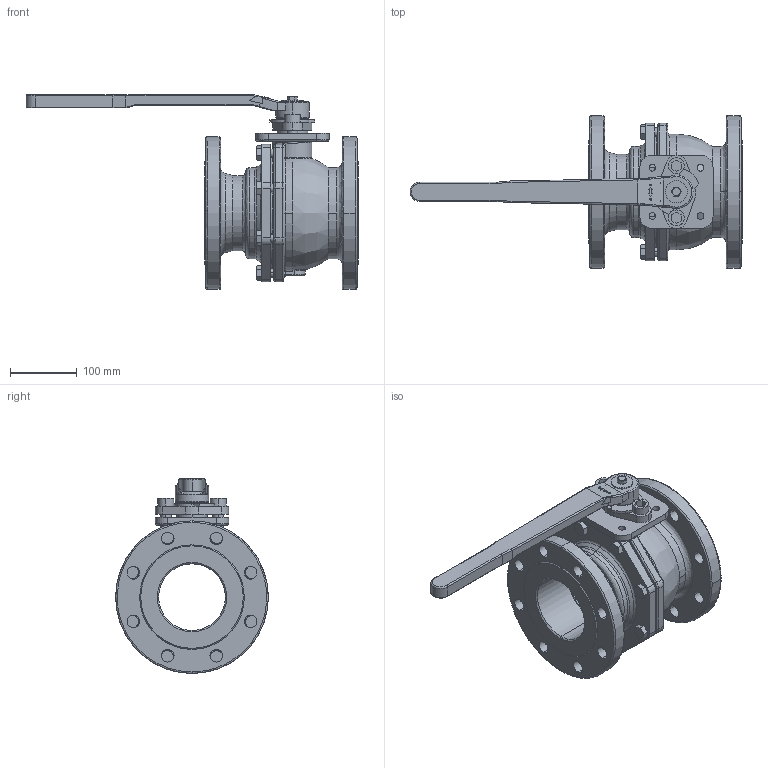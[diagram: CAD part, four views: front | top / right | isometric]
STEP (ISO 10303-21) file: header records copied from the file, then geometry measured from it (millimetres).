
FILE_DESCRIPTION(('Open CASCADE Model'),'2;1');
FILE_NAME('Open CASCADE Shape Model','2021-11-19T09:13:47',('Author'),( 'Open CASCADE'),'Open CASCADE STEP processor 7.3','Open CASCADE 7.3' ,'Unknown');
FILE_SCHEMA(('AUTOMOTIVE_DESIGN { 1 0 10303 214 1 1 1 1 }'));
Length unit declared in the file: millimetre
Products named in the file (29): Open CASCADE STEP translator 7.3 1; Open CASCADE STEP translator 7.3 1.1; Open CASCADE STEP translator 7.3 1.2; Open CASCADE STEP translator 7.3 1.3; Open CASCADE STEP translator 7.3 1.4; Open CASCADE STEP translator 7.3 1.5; Open CASCADE STEP translator 7.3 1.6; Open CASCADE STEP translator 7.3 1.7; Open CASCADE STEP translator 7.3 1.8; Open CASCADE STEP translator 7.3 1.9; Open CASCADE STEP translator 7.3 1.10; Open CASCADE STEP translator 7.3 1.11; Open CASCADE STEP translator 7.3 1.12; Open CASCADE STEP translator 7.3 1.13; Open CASCADE STEP translator 7.3 1.14; Open CASCADE STEP translator 7.3 1.15; Open CASCADE STEP translator 7.3 1.16; Open CASCADE STEP translator 7.3 1.17; Open CASCADE STEP translator 7.3 1.18; Open CASCADE STEP translator 7.3 1.19; Open CASCADE STEP translator 7.3 1.20; Open CASCADE STEP translator 7.3 1.21; Open CASCADE STEP translator 7.3 1.22; Open CASCADE STEP translator 7.3 1.23; Open CASCADE STEP translator 7.3 1.24; Open CASCADE STEP translator 7.3 1.25; Open CASCADE STEP translator 7.3 1.26; Open CASCADE STEP translator 7.3 1.27; Open CASCADE STEP translator 7.3 1.28
Assembly tree (28 placements, depth 2):
  Open CASCADE STEP translator 7.3 1
    Open CASCADE STEP translator 7.3 1.1
    Open CASCADE STEP translator 7.3 1.2
    Open CASCADE STEP translator 7.3 1.3
    Open CASCADE STEP translator 7.3 1.4
    Open CASCADE STEP translator 7.3 1.5
    Open CASCADE STEP translator 7.3 1.6
    Open CASCADE STEP translator 7.3 1.7
    Open CASCADE STEP translator 7.3 1.8
    Open CASCADE STEP translator 7.3 1.9
    Open CASCADE STEP translator 7.3 1.10
    Open CASCADE STEP translator 7.3 1.11
    Open CASCADE STEP translator 7.3 1.12
    Open CASCADE STEP translator 7.3 1.13
    Open CASCADE STEP translator 7.3 1.14
    Open CASCADE STEP translator 7.3 1.15
    Open CASCADE STEP translator 7.3 1.16
    Open CASCADE STEP translator 7.3 1.17
    Open CASCADE STEP translator 7.3 1.18
    Open CASCADE STEP translator 7.3 1.19
    Open CASCADE STEP translator 7.3 1.20
    Open CASCADE STEP translator 7.3 1.21
    Open CASCADE STEP translator 7.3 1.22
    Open CASCADE STEP translator 7.3 1.23
    Open CASCADE STEP translator 7.3 1.24
    Open CASCADE STEP translator 7.3 1.25
    Open CASCADE STEP translator 7.3 1.26
    Open CASCADE STEP translator 7.3 1.27
    Open CASCADE STEP translator 7.3 1.28
Bounding box: 498.4 x 229 x 292.4 mm (x, y, z)
Volume: 3902961.4 mm3; surface area: 709825.2 mm2
Topology: 28 solids, 28 shells, 816 faces, 2139 edges, 1407 vertices
Faces by surface type: cylinder 341, plane 265, bspline 112, cone 96, torus 2
Entity records: 110527 total; most frequent: CARTESIAN_POINT 70757, DIRECTION 6465, ORIENTED_EDGE 4262, PCURVE 4262, DEFINITIONAL_REPRESENTATION 4262, LINE 3348, VECTOR 3348, EDGE_CURVE 2131
